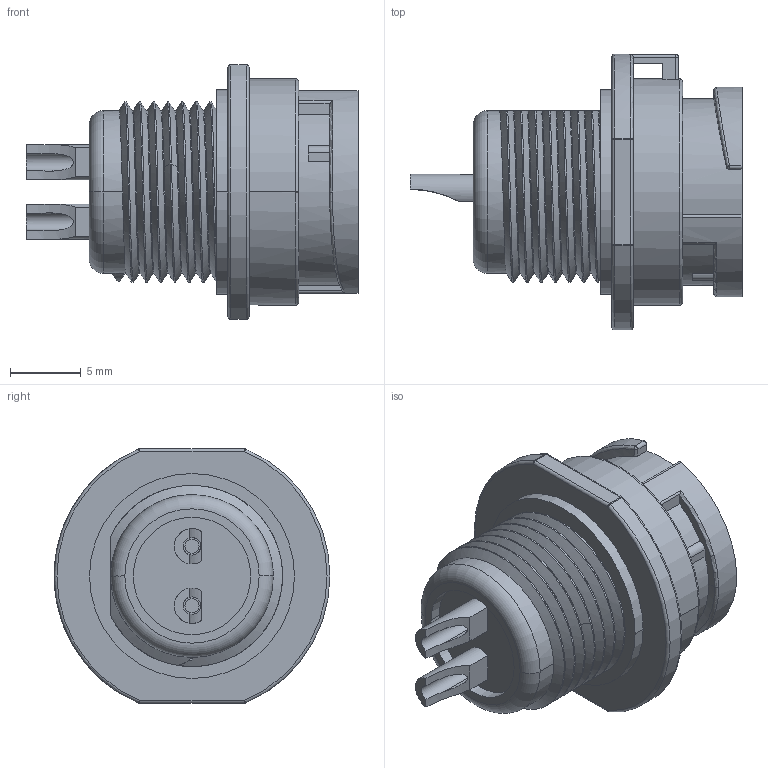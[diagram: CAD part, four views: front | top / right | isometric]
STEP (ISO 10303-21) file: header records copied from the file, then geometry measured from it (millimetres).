
FILE_DESCRIPTION((''),'2;1');
FILE_NAME('963','2020-04-25T',('Administrator'),(''),'CREO PARAMETRIC BY PTC INC, 2016130','CREO PARAMETRIC BY PTC INC, 2016130','');
FILE_SCHEMA(('CONFIG_CONTROL_DESIGN','GEOMETRIC_VALIDATION_PROPERTIES_MIM'));
Length unit declared in the file: inch
Products named in the file (1): 963
Bounding box: 23.47 x 19.5 x 18 mm (x, y, z)
Volume: 2000.2 mm3; surface area: 2226.9 mm2
Topology: 1 solids, 1 shells, 198 faces, 528 edges, 328 vertices
Faces by surface type: cylinder 84, plane 59, bspline 25, sphere 16, torus 12, cone 2
Entity records: 9242 total; most frequent: CARTESIAN_POINT 4540, ORIENTED_EDGE 1024, DIRECTION 904, EDGE_CURVE 512, AXIS2_PLACEMENT_3D 359, VERTEX_POINT 328, EDGE_LOOP 212, FACE_OUTER_BOUND 198
